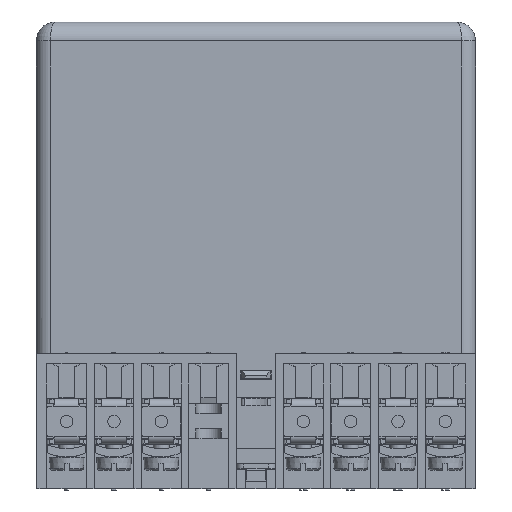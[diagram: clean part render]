
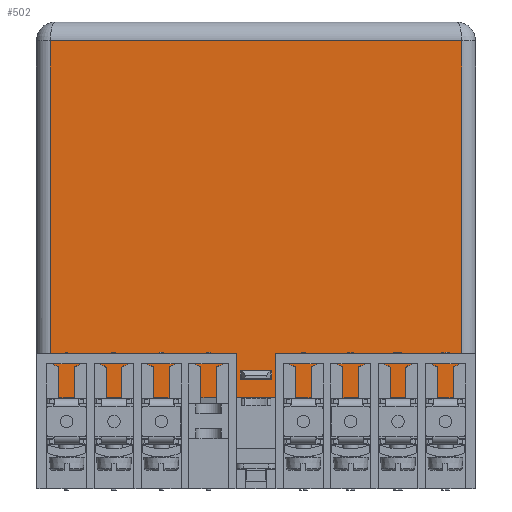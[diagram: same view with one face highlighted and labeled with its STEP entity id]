
A CAD part, left-side view. The second image highlights one B-rep face of the part: STEP entity #502.
In plain terms, the highlighted planar face has unit normal (-1, 0, 0).
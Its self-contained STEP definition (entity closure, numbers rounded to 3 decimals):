
#502=ADVANCED_FACE('',(#52532,#52534),#52536,.T.);
#52532=FACE_BOUND('',#52533,.T.);
#52533=EDGE_LOOP('',(#95849,#95850,#95851,#95852,#95853,#95854,#95855,#95856,#95857,
#95858,#95859,#95860,#95861,#95862,#95863,#95864,#95865,#95866,#95867,#95868,#95869,
#95870));
#52534=FACE_BOUND('',#52535,.T.);
#52535=EDGE_LOOP('',(#95871,#95872,#95873,#95874));
#52536=PLANE('',#52537);
#52537=AXIS2_PLACEMENT_3D('',#52538,#52539,#52540);
#52538=CARTESIAN_POINT('',(-20.7,-41.25,93.6));
#52539=DIRECTION('',(-1.,0.,-0.));
#52540=DIRECTION('',(0.,1.,0.));
#95849=ORIENTED_EDGE('',*,*,#127566,.F.);
#95850=ORIENTED_EDGE('',*,*,#127567,.F.);
#95851=ORIENTED_EDGE('',*,*,#127568,.T.);
#95852=ORIENTED_EDGE('',*,*,#127563,.T.);
#95853=ORIENTED_EDGE('',*,*,#127569,.F.);
#95854=ORIENTED_EDGE('',*,*,#127443,.F.);
#95855=ORIENTED_EDGE('',*,*,#127570,.F.);
#95856=ORIENTED_EDGE('',*,*,#127447,.F.);
#95857=ORIENTED_EDGE('',*,*,#127571,.F.);
#95858=ORIENTED_EDGE('',*,*,#127451,.F.);
#95859=ORIENTED_EDGE('',*,*,#127572,.F.);
#95860=ORIENTED_EDGE('',*,*,#127455,.F.);
#95861=ORIENTED_EDGE('',*,*,#127573,.F.);
#95862=ORIENTED_EDGE('',*,*,#127463,.F.);
#95863=ORIENTED_EDGE('',*,*,#127574,.F.);
#95864=ORIENTED_EDGE('',*,*,#127467,.F.);
#95865=ORIENTED_EDGE('',*,*,#127575,.F.);
#95866=ORIENTED_EDGE('',*,*,#127471,.F.);
#95867=ORIENTED_EDGE('',*,*,#127576,.F.);
#95868=ORIENTED_EDGE('',*,*,#127475,.F.);
#95869=ORIENTED_EDGE('',*,*,#127577,.F.);
#95870=ORIENTED_EDGE('',*,*,#127437,.F.);
#95871=ORIENTED_EDGE('',*,*,#127578,.T.);
#95872=ORIENTED_EDGE('',*,*,#127579,.T.);
#95873=ORIENTED_EDGE('',*,*,#127580,.T.);
#95874=ORIENTED_EDGE('',*,*,#127487,.T.);
#127437=EDGE_CURVE('',#143376,#143379,#143380,.T.);
#127443=EDGE_CURVE('',#143389,#143385,#143391,.T.);
#127447=EDGE_CURVE('',#143397,#143393,#143399,.T.);
#127451=EDGE_CURVE('',#143405,#143401,#143407,.T.);
#127455=EDGE_CURVE('',#143413,#143409,#143415,.T.);
#127463=EDGE_CURVE('',#143429,#143417,#143431,.T.);
#127467=EDGE_CURVE('',#143437,#143433,#143439,.T.);
#127471=EDGE_CURVE('',#143445,#143441,#143447,.T.);
#127475=EDGE_CURVE('',#143453,#143449,#143455,.T.);
#127487=EDGE_CURVE('',#143479,#143477,#143480,.F.);
#127563=EDGE_CURVE('',#143612,#143610,#143613,.T.);
#127566=EDGE_CURVE('',#143617,#143376,#143618,.T.);
#127567=EDGE_CURVE('',#143619,#143617,#143620,.T.);
#127568=EDGE_CURVE('',#143619,#143612,#143621,.T.);
#127569=EDGE_CURVE('',#143385,#143610,#143622,.F.);
#127570=EDGE_CURVE('',#143393,#143389,#143623,.T.);
#127571=EDGE_CURVE('',#143401,#143397,#143624,.F.);
#127572=EDGE_CURVE('',#143409,#143405,#143625,.F.);
#127573=EDGE_CURVE('',#143417,#143413,#143626,.T.);
#127574=EDGE_CURVE('',#143433,#143429,#143627,.T.);
#127575=EDGE_CURVE('',#143441,#143437,#143628,.F.);
#127576=EDGE_CURVE('',#143449,#143445,#143629,.F.);
#127577=EDGE_CURVE('',#143379,#143453,#143630,.F.);
#127578=EDGE_CURVE('',#143477,#143631,#143632,.F.);
#127579=EDGE_CURVE('',#143631,#143633,#143634,.F.);
#127580=EDGE_CURVE('',#143633,#143479,#143635,.F.);
#143376=VERTEX_POINT('',#169793);
#143379=VERTEX_POINT('',#169798);
#143380=LINE('',#169799,#169800);
#143385=VERTEX_POINT('',#169810);
#143389=VERTEX_POINT('',#169818);
#143391=LINE('',#169822,#169823);
#143393=VERTEX_POINT('',#169826);
#143397=VERTEX_POINT('',#169834);
#143399=LINE('',#169838,#169839);
#143401=VERTEX_POINT('',#169842);
#143405=VERTEX_POINT('',#169850);
#143407=LINE('',#169854,#169855);
#143409=VERTEX_POINT('',#169858);
#143413=VERTEX_POINT('',#169866);
#143415=LINE('',#169870,#169871);
#143417=VERTEX_POINT('',#169874);
#143429=VERTEX_POINT('',#169898);
#143431=LINE('',#169902,#169903);
#143433=VERTEX_POINT('',#169906);
#143437=VERTEX_POINT('',#169914);
#143439=LINE('',#169918,#169919);
#143441=VERTEX_POINT('',#169922);
#143445=VERTEX_POINT('',#169930);
#143447=LINE('',#169934,#169935);
#143449=VERTEX_POINT('',#169938);
#143453=VERTEX_POINT('',#169946);
#143455=LINE('',#169950,#169951);
#143477=VERTEX_POINT('',#170002);
#143479=VERTEX_POINT('',#170006);
#143480=LINE('',#170007,#170008);
#143610=VERTEX_POINT('',#170299);
#143612=VERTEX_POINT('',#170304);
#143613=LINE('',#170305,#170306);
#143617=VERTEX_POINT('',#170316);
#143618=LINE('',#170317,#170318);
#143619=VERTEX_POINT('',#170320);
#143620=LINE('',#170321,#170322);
#143621=LINE('',#170324,#170325);
#143622=LINE('',#170327,#170328);
#143623=LINE('',#170330,#170331);
#143624=LINE('',#170333,#170334);
#143625=LINE('',#170336,#170337);
#143626=LINE('',#170339,#170340);
#143627=LINE('',#170342,#170343);
#143628=LINE('',#170345,#170346);
#143629=LINE('',#170348,#170349);
#143630=LINE('',#170351,#170352);
#143631=VERTEX_POINT('',#170354);
#143632=LINE('',#170355,#170356);
#143633=VERTEX_POINT('',#170358);
#143634=LINE('',#170359,#170360);
#143635=LINE('',#170362,#170363);
#169793=CARTESIAN_POINT('',(-20.7,-39.55,18.2));
#169798=CARTESIAN_POINT('',(-20.7,-36.45,18.2));
#169799=CARTESIAN_POINT('',(-20.7,-39.55,18.2));
#169800=VECTOR('',#169801,1.);
#169801=DIRECTION('',(0.,1.,0.));
#169810=CARTESIAN_POINT('',(-20.7,39.55,18.2));
#169818=CARTESIAN_POINT('',(-20.7,36.45,18.2));
#169822=CARTESIAN_POINT('',(-20.7,36.45,18.2));
#169823=VECTOR('',#169824,1.);
#169824=DIRECTION('',(0.,1.,0.));
#169826=CARTESIAN_POINT('',(-20.7,30.05,18.2));
#169834=CARTESIAN_POINT('',(-20.7,26.95,18.2));
#169838=CARTESIAN_POINT('',(-20.7,26.95,18.2));
#169839=VECTOR('',#169840,1.);
#169840=DIRECTION('',(0.,1.,0.));
#169842=CARTESIAN_POINT('',(-20.7,20.55,18.2));
#169850=CARTESIAN_POINT('',(-20.7,17.45,18.2));
#169854=CARTESIAN_POINT('',(-20.7,17.45,18.2));
#169855=VECTOR('',#169856,1.);
#169856=DIRECTION('',(0.,1.,0.));
#169858=CARTESIAN_POINT('',(-20.7,11.05,18.2));
#169866=CARTESIAN_POINT('',(-20.7,7.95,18.2));
#169870=CARTESIAN_POINT('',(-20.7,7.95,18.2));
#169871=VECTOR('',#169872,1.);
#169872=DIRECTION('',(0.,1.,0.));
#169874=CARTESIAN_POINT('',(-20.7,4.,18.2));
#169898=CARTESIAN_POINT('',(-20.7,-4.,18.2));
#169902=CARTESIAN_POINT('',(-20.7,-4.,18.2));
#169903=VECTOR('',#169904,1.);
#169904=DIRECTION('',(0.,1.,0.));
#169906=CARTESIAN_POINT('',(-20.7,-7.95,18.2));
#169914=CARTESIAN_POINT('',(-20.7,-11.05,18.2));
#169918=CARTESIAN_POINT('',(-20.7,-11.05,18.2));
#169919=VECTOR('',#169920,1.);
#169920=DIRECTION('',(0.,1.,0.));
#169922=CARTESIAN_POINT('',(-20.7,-17.45,18.2));
#169930=CARTESIAN_POINT('',(-20.7,-20.55,18.2));
#169934=CARTESIAN_POINT('',(-20.7,-20.55,18.2));
#169935=VECTOR('',#169936,1.);
#169936=DIRECTION('',(0.,1.,0.));
#169938=CARTESIAN_POINT('',(-20.7,-26.95,18.2));
#169946=CARTESIAN_POINT('',(-20.7,-30.05,18.2));
#169950=CARTESIAN_POINT('',(-20.7,-30.05,18.2));
#169951=VECTOR('',#169952,1.);
#169952=DIRECTION('',(0.,1.,0.));
#170002=CARTESIAN_POINT('',(-20.7,-3.15,23.6));
#170006=CARTESIAN_POINT('',(-20.7,3.15,23.6));
#170007=CARTESIAN_POINT('',(-20.7,-3.15,23.6));
#170008=VECTOR('',#170009,1.);
#170009=DIRECTION('',(0.,1.,0.));
#170299=CARTESIAN_POINT('',(-20.7,41.25,18.2));
#170304=CARTESIAN_POINT('',(-20.7,41.25,89.8));
#170305=CARTESIAN_POINT('',(-20.7,41.25,89.8));
#170306=VECTOR('',#170307,1.);
#170307=DIRECTION('',(0.,0.,-1.));
#170316=CARTESIAN_POINT('',(-20.7,-41.25,18.2));
#170317=CARTESIAN_POINT('',(-20.7,-41.25,18.2));
#170318=VECTOR('',#170319,1.);
#170319=DIRECTION('',(0.,1.,0.));
#170320=CARTESIAN_POINT('',(-20.7,-41.25,89.8));
#170321=CARTESIAN_POINT('',(-20.7,-41.25,89.8));
#170322=VECTOR('',#170323,1.);
#170323=DIRECTION('',(0.,0.,-1.));
#170324=CARTESIAN_POINT('',(-20.7,-41.25,89.8));
#170325=VECTOR('',#170326,1.);
#170326=DIRECTION('',(0.,1.,0.));
#170327=CARTESIAN_POINT('',(-20.7,41.25,18.2));
#170328=VECTOR('',#170329,1.);
#170329=DIRECTION('',(0.,-1.,0.));
#170330=CARTESIAN_POINT('',(-20.7,30.05,18.2));
#170331=VECTOR('',#170332,1.);
#170332=DIRECTION('',(0.,1.,0.));
#170333=CARTESIAN_POINT('',(-20.7,26.95,18.2));
#170334=VECTOR('',#170335,1.);
#170335=DIRECTION('',(0.,-1.,0.));
#170336=CARTESIAN_POINT('',(-20.7,17.45,18.2));
#170337=VECTOR('',#170338,1.);
#170338=DIRECTION('',(0.,-1.,0.));
#170339=CARTESIAN_POINT('',(-20.7,4.,18.2));
#170340=VECTOR('',#170341,1.);
#170341=DIRECTION('',(0.,1.,0.));
#170342=CARTESIAN_POINT('',(-20.7,-7.95,18.2));
#170343=VECTOR('',#170344,1.);
#170344=DIRECTION('',(0.,1.,0.));
#170345=CARTESIAN_POINT('',(-20.7,-11.05,18.2));
#170346=VECTOR('',#170347,1.);
#170347=DIRECTION('',(0.,-1.,0.));
#170348=CARTESIAN_POINT('',(-20.7,-20.55,18.2));
#170349=VECTOR('',#170350,1.);
#170350=DIRECTION('',(0.,-1.,0.));
#170351=CARTESIAN_POINT('',(-20.7,-30.05,18.2));
#170352=VECTOR('',#170353,1.);
#170353=DIRECTION('',(0.,-1.,0.));
#170354=CARTESIAN_POINT('',(-20.7,-3.15,21.9));
#170355=CARTESIAN_POINT('',(-20.7,-3.15,21.9));
#170356=VECTOR('',#170357,1.);
#170357=DIRECTION('',(0.,0.,1.));
#170358=CARTESIAN_POINT('',(-20.7,3.15,21.9));
#170359=CARTESIAN_POINT('',(-20.7,3.15,21.9));
#170360=VECTOR('',#170361,1.);
#170361=DIRECTION('',(0.,-1.,0.));
#170362=CARTESIAN_POINT('',(-20.7,3.15,23.6));
#170363=VECTOR('',#170364,1.);
#170364=DIRECTION('',(0.,0.,-1.));
